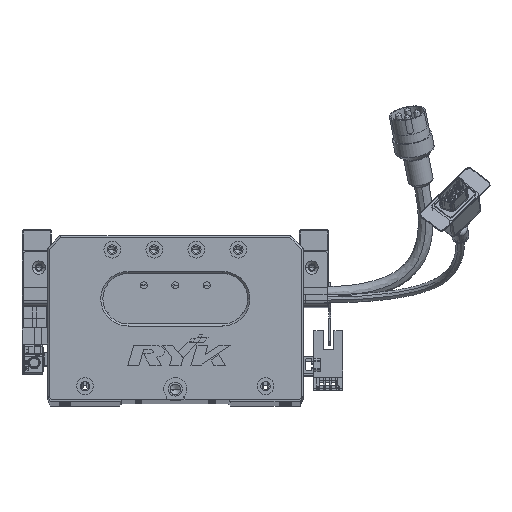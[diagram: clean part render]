
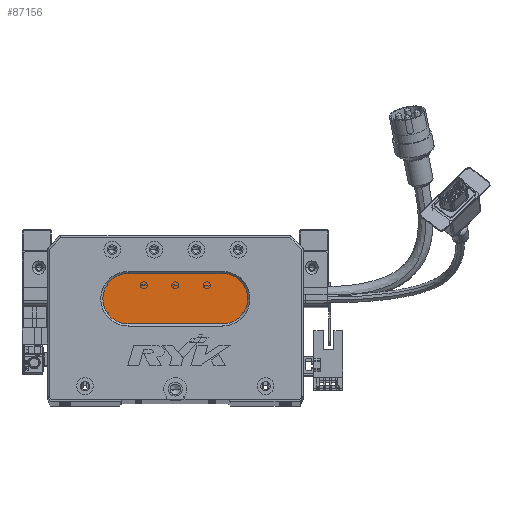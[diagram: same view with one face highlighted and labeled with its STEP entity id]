
A CAD part, top view. The second image highlights one B-rep face of the part: STEP entity #87156.
In plain terms, the highlighted planar face has unit normal (0, 0, 1) as drawn and (0, 0, -1) by its records, which use the part's own axes.
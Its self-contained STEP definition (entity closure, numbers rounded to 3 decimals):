
#416 = DIRECTION ( 'NONE',  ( -1., 0., 0. ) ) ;
#5054 = VERTEX_POINT ( 'NONE', #74328 ) ;
#8585 = EDGE_CURVE ( 'NONE', #67207, #52117, #59013, .T. ) ;
#12877 = ORIENTED_EDGE ( 'NONE', *, *, #70525, .T. ) ;
#20699 = VERTEX_POINT ( 'NONE', #50455 ) ;
#20903 = LINE ( 'NONE', #42453, #28244 ) ;
#22070 = DIRECTION ( 'NONE',  ( -1., 0., 0. ) ) ;
#23646 = CARTESIAN_POINT ( 'NONE',  ( 83.5, 36., 13. ) ) ;
#23971 = AXIS2_PLACEMENT_3D ( 'NONE', #32617, #52884, #73424 ) ;
#26409 = LINE ( 'NONE', #41572, #42230 ) ;
#28244 = VECTOR ( 'NONE', #50078, 1000. ) ;
#28246 = DIRECTION ( 'NONE',  ( 0., 0., -1. ) ) ;
#30568 = CARTESIAN_POINT ( 'NONE',  ( 38.5, 48., 13. ) ) ;
#32589 = EDGE_CURVE ( 'NONE', #20699, #67207, #20903, .T. ) ;
#32617 = CARTESIAN_POINT ( 'NONE',  ( 83.5, 48., 13. ) ) ;
#34410 = CARTESIAN_POINT ( 'NONE',  ( 83.5, 48., 13. ) ) ;
#36136 = ORIENTED_EDGE ( 'NONE', *, *, #41533, .T. ) ;
#37570 = AXIS2_PLACEMENT_3D ( 'NONE', #30568, #78385, #51385 ) ;
#37738 = DIRECTION ( 'NONE',  ( 0., 0., -1. ) ) ;
#39418 = VERTEX_POINT ( 'NONE', #44898 ) ;
#41533 = EDGE_CURVE ( 'NONE', #52117, #39418, #26409, .T. ) ;
#41572 = CARTESIAN_POINT ( 'NONE',  ( 83.5, 36., 13. ) ) ;
#42230 = VECTOR ( 'NONE', #416, 1000. ) ;
#42453 = CARTESIAN_POINT ( 'NONE',  ( 83.5, 60., 13. ) ) ;
#44898 = CARTESIAN_POINT ( 'NONE',  ( 38.5, 36., 13. ) ) ;
#46628 = ORIENTED_EDGE ( 'NONE', *, *, #61758, .T. ) ;
#48764 = CARTESIAN_POINT ( 'NONE',  ( 83.5, 60., 13. ) ) ;
#49621 = EDGE_LOOP ( 'NONE', ( #68063, #36136, #12877, #46628, #62257 ) ) ;
#50078 = DIRECTION ( 'NONE',  ( 1., 0., 0. ) ) ;
#50455 = CARTESIAN_POINT ( 'NONE',  ( 38.5, 60., 13. ) ) ;
#51385 = DIRECTION ( 'NONE',  ( -1., 0., 0. ) ) ;
#52117 = VERTEX_POINT ( 'NONE', #23646 ) ;
#52884 = DIRECTION ( 'NONE',  ( 0., 0., -1. ) ) ;
#58618 = DIRECTION ( 'NONE',  ( -1., 0., 0. ) ) ;
#59013 = CIRCLE ( 'NONE', #23971, 12. ) ;
#61758 = EDGE_CURVE ( 'NONE', #5054, #20699, #82175, .T. ) ;
#62257 = ORIENTED_EDGE ( 'NONE', *, *, #32589, .T. ) ;
#64123 = CIRCLE ( 'NONE', #37570, 12. ) ;
#65071 = CARTESIAN_POINT ( 'NONE',  ( 38.5, 48., 13. ) ) ;
#65543 = FACE_OUTER_BOUND ( 'NONE', #49621, .T. ) ;
#67207 = VERTEX_POINT ( 'NONE', #48764 ) ;
#68063 = ORIENTED_EDGE ( 'NONE', *, *, #8585, .T. ) ;
#70525 = EDGE_CURVE ( 'NONE', #39418, #5054, #64123, .T. ) ;
#73424 = DIRECTION ( 'NONE',  ( -1., 0., 0. ) ) ;
#74328 = CARTESIAN_POINT ( 'NONE',  ( 26.5, 48., 13. ) ) ;
#74342 = PLANE ( 'NONE',  #77041 ) ;
#77041 = AXIS2_PLACEMENT_3D ( 'NONE', #34410, #28246, #22070 ) ;
#78385 = DIRECTION ( 'NONE',  ( 0., 0., -1. ) ) ;
#82175 = CIRCLE ( 'NONE', #87209, 12. ) ;
#87156 = ADVANCED_FACE ( 'NONE', ( #65543 ), #74342, .T. ) ;
#87209 = AXIS2_PLACEMENT_3D ( 'NONE', #65071, #37738, #58618 ) ;
